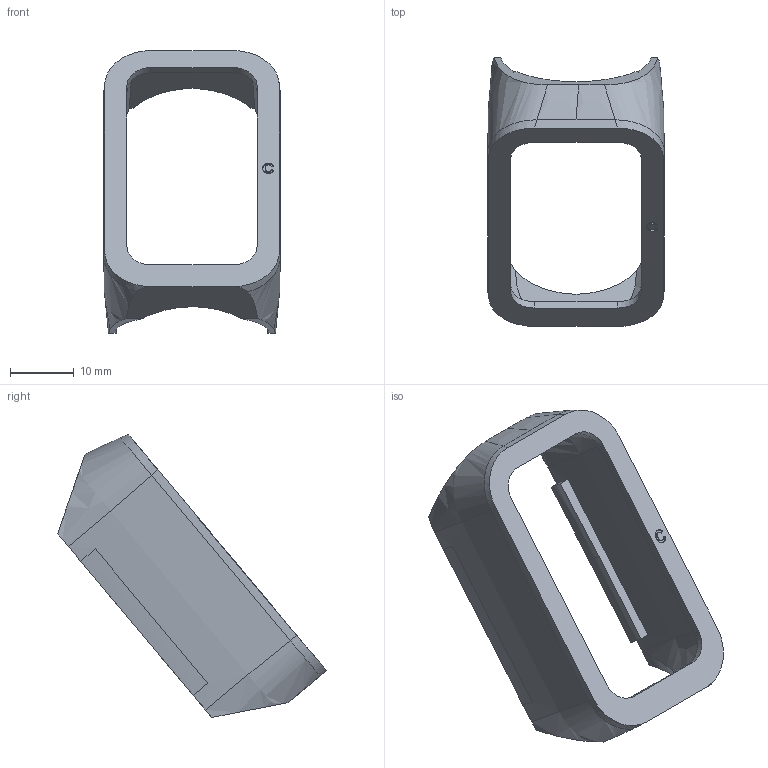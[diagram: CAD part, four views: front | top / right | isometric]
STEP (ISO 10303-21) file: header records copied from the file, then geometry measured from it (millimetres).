
FILE_DESCRIPTION(('Open CASCADE Model'),'2;1');
FILE_NAME('Open CASCADE Shape Model','1970-01-01T00:00:00',('Author'),( 'Open CASCADE'),'Open CASCADE STEP processor 7.8','Open CASCADE 7.8' ,'Unknown');
FILE_SCHEMA(('AUTOMOTIVE_DESIGN { 1 0 10303 214 1 1 1 1 }'));
Length unit declared in the file: millimetre
Products named in the file (2): Open CASCADE STEP translator 7.8 3; cover-retention-c
Assembly tree (1 placements, depth 2):
  Open CASCADE STEP translator 7.8 3
    cover-retention-c
Bounding box: 27.76 x 42.29 x 44.52 mm (x, y, z)
Volume: 3594.3 mm3; surface area: 5202.8 mm2
Topology: 1 solids, 1 shells, 78 faces, 223 edges, 148 vertices
Faces by surface type: bspline 45, extrusion 16, plane 13, cylinder 4
Entity records: 10649 total; most frequent: CARTESIAN_POINT 7351, B_SPLINE_CURVE_WITH_KNOTS 500, ORIENTED_EDGE 446, PCURVE 446, DEFINITIONAL_REPRESENTATION 446, EDGE_CURVE 223, SURFACE_CURVE 223, DIRECTION 209
